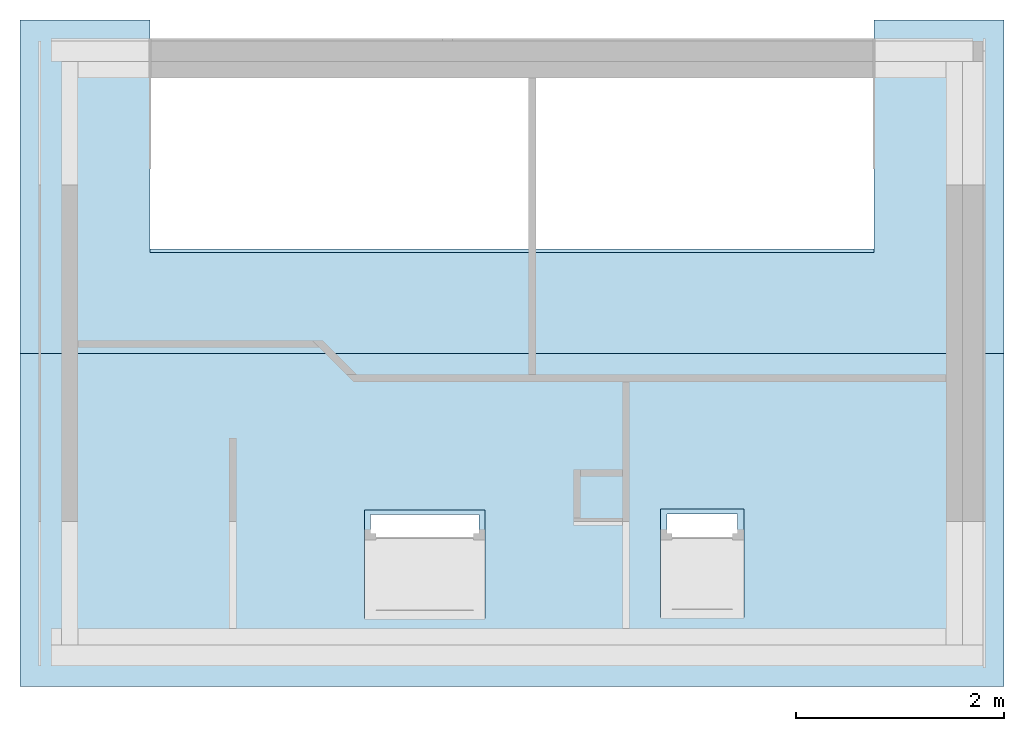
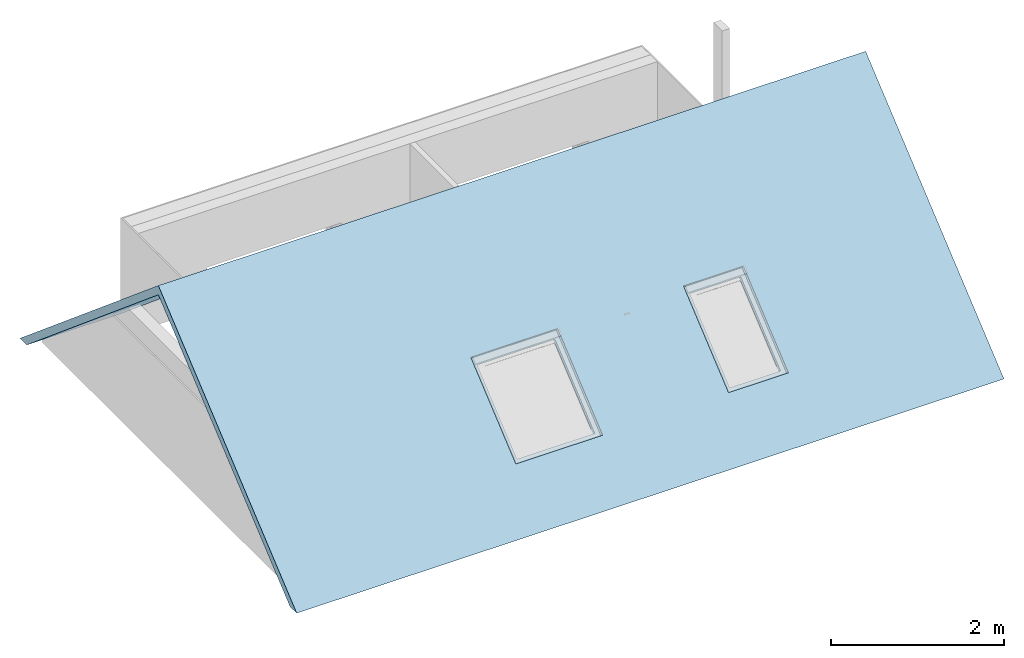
# One storey, part 3 of 5: 1 roof.
"""IFC2X3 building model written with IfcOpenShell, lengths in centimetres."""

from ifc_helpers import new_model, entity, si_unit, converted_unit, derived_unit, direction, frame, origin, place, context, subcontext, project, spatial, faceted_brep, material, layer, layer_set, element, save


model = new_model("IFC2X3")

# Units and contexts
model_context = context("Model", 3, precision=0.001, world=origin(), true_north=direction((6.12303176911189e-17, 1.0)))
body_context = subcontext(model_context, "Body", "Model", "MODEL_VIEW")
ifc_project = project(units=[si_unit("LENGTHUNIT", "METRE", prefix="CENTI"), si_unit("AREAUNIT", "SQUARE_METRE"), si_unit("VOLUMEUNIT", "CUBIC_METRE"), converted_unit("PLANEANGLEUNIT", "DEGREE", entity("IfcRatioMeasure", 0.0174532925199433), si_unit("PLANEANGLEUNIT", "RADIAN"), dimensions=[0, 0, 0, 0, 0, 0, 0]), si_unit("MASSUNIT", "GRAM", prefix="KILO"), derived_unit("MASSDENSITYUNIT", [(si_unit("MASSUNIT", "GRAM", prefix="KILO"), 1), (si_unit("LENGTHUNIT", "METRE"), -3)]), derived_unit("MOMENTOFINERTIAUNIT", [(si_unit("LENGTHUNIT", "METRE"), 4)]), si_unit("TIMEUNIT", "SECOND"), si_unit("FREQUENCYUNIT", "HERTZ"), si_unit("THERMODYNAMICTEMPERATUREUNIT", "DEGREE_CELSIUS"), derived_unit("THERMALTRANSMITTANCEUNIT", [(si_unit("MASSUNIT", "GRAM", prefix="KILO"), 1), (si_unit("THERMODYNAMICTEMPERATUREUNIT", "KELVIN"), -1), (si_unit("TIMEUNIT", "SECOND"), -3)]), derived_unit("VOLUMETRICFLOWRATEUNIT", [(si_unit("LENGTHUNIT", "METRE"), 3), (si_unit("TIMEUNIT", "SECOND"), -1)]), si_unit("ELECTRICCURRENTUNIT", "AMPERE"), si_unit("ELECTRICVOLTAGEUNIT", "VOLT"), si_unit("POWERUNIT", "WATT"), si_unit("FORCEUNIT", "NEWTON", prefix="KILO"), si_unit("ILLUMINANCEUNIT", "LUX"), si_unit("LUMINOUSFLUXUNIT", "LUMEN"), si_unit("LUMINOUSINTENSITYUNIT", "CANDELA"), derived_unit("USERDEFINED", [(si_unit("MASSUNIT", "GRAM", prefix="KILO"), -1), (si_unit("LENGTHUNIT", "METRE"), -2), (si_unit("TIMEUNIT", "SECOND"), 3), (si_unit("LUMINOUSFLUXUNIT", "LUMEN"), 1)]), derived_unit("LINEARVELOCITYUNIT", [(si_unit("LENGTHUNIT", "METRE"), 1), (si_unit("TIMEUNIT", "SECOND"), -1)]), si_unit("PRESSUREUNIT", "PASCAL"), derived_unit("USERDEFINED", [(si_unit("LENGTHUNIT", "METRE"), -2), (si_unit("MASSUNIT", "GRAM", prefix="KILO"), 1), (si_unit("TIMEUNIT", "SECOND"), -2)]), derived_unit("LINEARFORCEUNIT", [(si_unit("MASSUNIT", "GRAM", prefix="KILO"), 1), (si_unit("LENGTHUNIT", "METRE"), 1), (si_unit("TIMEUNIT", "SECOND"), -2), (si_unit("LENGTHUNIT", "METRE"), -1)]), derived_unit("PLANARFORCEUNIT", [(si_unit("MASSUNIT", "GRAM", prefix="KILO"), 1), (si_unit("LENGTHUNIT", "METRE"), 1), (si_unit("TIMEUNIT", "SECOND"), -2), (si_unit("LENGTHUNIT", "METRE"), -2)])], contexts=[model_context])

# Site, building, storey
site_placement = place(None, origin())
site = spatial("IfcSite", under=ifc_project, at=site_placement, Name="Surface", CompositionType="ELEMENT")
building_placement = place(site_placement, origin())
building = spatial("IfcBuilding", under=site, at=building_placement, CompositionType="ELEMENT")
storey_placement = place(building_placement, frame((0.0, 0.0, 365.0)))
storey = spatial("IfcBuildingStorey", under=building, at=storey_placement, Name="3.65_Sablière", CompositionType="ELEMENT", Elevation=365.0)

# Roof
ifc_material = material(Name="Ardoise")
ifc_layer = layer(ifc_material, 10.0)
ifc_layer_set = layer_set([ifc_layer], Name="Toit de base:Toiture")
roof_placement = place(storey_placement, frame((-1808.17726031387, 100.992317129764, 0.00407289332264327)))
element("IfcRoof", 1, at=roof_placement, inside=storey, material=ifc_layer_set, Name="Toit de base:Toiture", ObjectType="Toit de base:Toiture", ShapeType="NOTDEFINED", context=body_context, shape_type="Brep", body=[
    faceted_brep([(821.0, 625.442761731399, 0.0), (946.0, 625.442761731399, 0.0), (946.0, 320.500000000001, 255.877358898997), (0.0, 320.500000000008, 255.877358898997), (0.0, 625.442761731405, 0.0), (125.0, 625.442761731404, 0.0), (125.0, 421.0, 171.547845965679), (821.0, 421.0, 171.547845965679), (946.0, 15.5572382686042, 0.0), (0.0, 15.5572382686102, 0.0), (337.112698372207, 170.973297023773, 130.409557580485), (337.112698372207, 70.2024445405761, 45.8527724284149), (441.112698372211, 70.2024445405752, 45.8527724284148), (441.11269837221, 170.973297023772, 130.409557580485), (622.0, 171.726232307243, 131.041345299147), (622.0, 70.9553798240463, 46.4845601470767), (690.0, 70.9553798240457, 46.4845601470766), (690.0, 171.726232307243, 131.041345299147), (0.0, 641.0, 0.0), (0.0, 320.500000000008, 268.93143179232), (946.0, 320.500000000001, 268.93143179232), (946.0, 641.0, 0.0), (821.0, 641.0, 0.0), (821.0, 417.252808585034, 187.746185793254), (125.0, 417.252808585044, 187.746185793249), (125.0, 641.0, 0.0), (0.0, 0.0, 0.0), (946.0, 0.0, 0.0), (331.112698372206, 169.994485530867, 142.642310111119), (447.11269837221, 169.994485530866, 142.642310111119), (447.11269837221, 65.8124412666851, 55.2231951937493), (331.112698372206, 65.812441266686, 55.2231951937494), (616.0, 170.747420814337, 143.274097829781), (696.0, 170.747420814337, 143.274097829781), (696.0, 66.5653765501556, 55.8549829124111), (616.0, 66.5653765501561, 55.8549829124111), (125.0, 417.252808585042, 177.721766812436), (125.0, 421.0, 177.983795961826), (821.0, 421.0, 177.983795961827), (821.0, 417.252808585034, 177.721766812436), (337.112698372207, 165.54797914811, 132.384211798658), (337.112698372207, 73.6226459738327, 55.2496986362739), (441.112698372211, 73.6226459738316, 55.2496986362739), (441.112698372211, 165.547979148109, 132.384211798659), (331.112698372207, 173.2084235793, 138.812087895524), (331.112698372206, 69.0263793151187, 51.3929729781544), (447.11269837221, 69.0263793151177, 51.3929729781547), (447.11269837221, 173.208423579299, 138.812087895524), (622.0, 166.30091443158, 133.01599951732), (622.0, 74.3755812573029, 55.8814863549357), (690.0, 74.3755812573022, 55.8814863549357), (690.0, 166.30091443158, 133.015999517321), (616.0, 173.96135886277, 139.443875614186), (616.0, 69.779314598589, 52.0247606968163), (696.0, 69.7793145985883, 52.0247606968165), (696.0, 173.961358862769, 139.443875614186)], [[[0, 1, 2, 3, 4, 5, 6, 7]], [[3, 2, 8, 9], [10, 11, 12, 13], [14, 15, 16, 17]], [[18, 19, 20, 21, 22, 23, 24, 25]], [[20, 19, 26, 27], [28, 29, 30, 31], [32, 33, 34, 35]], [[5, 4, 18, 25]], [[9, 8, 27, 26]], [[1, 0, 22, 21]], [[6, 5, 25, 24, 36, 37]], [[7, 6, 37, 38]], [[0, 7, 38, 39, 23, 22]], [[4, 3, 9, 26, 19, 18]], [[2, 1, 21, 20, 27, 8]], [[36, 39, 38, 37]], [[39, 36, 24, 23]], [[10, 40, 41, 11]], [[12, 42, 43, 13]], [[41, 40, 43, 42], [44, 45, 46, 47]], [[44, 47, 29, 28]], [[47, 46, 30, 29]], [[46, 45, 31, 30]], [[45, 44, 28, 31]], [[40, 10, 13, 43]], [[11, 41, 42, 12]], [[14, 48, 49, 15]], [[16, 50, 51, 17]], [[49, 48, 51, 50], [52, 53, 54, 55]], [[52, 55, 33, 32]], [[55, 54, 34, 33]], [[54, 53, 35, 34]], [[53, 52, 32, 35]], [[48, 14, 17, 51]], [[15, 49, 50, 16]]], outer=[[True], [True, False, False], [True], [True, False, False], [True], [True], [True], [True], [True], [True], [True], [True], [True], [True], [True], [True], [False, True], [True], [True], [True], [True], [True], [True], [True], [True], [False, True], [True], [True], [True], [True], [True], [True]]),
])

save(model, "model.ifc")
